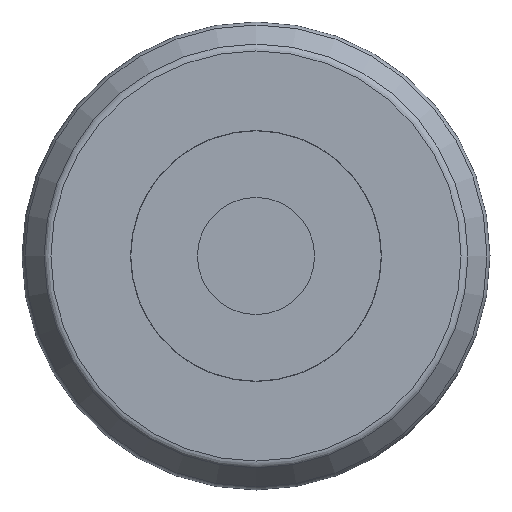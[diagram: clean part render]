
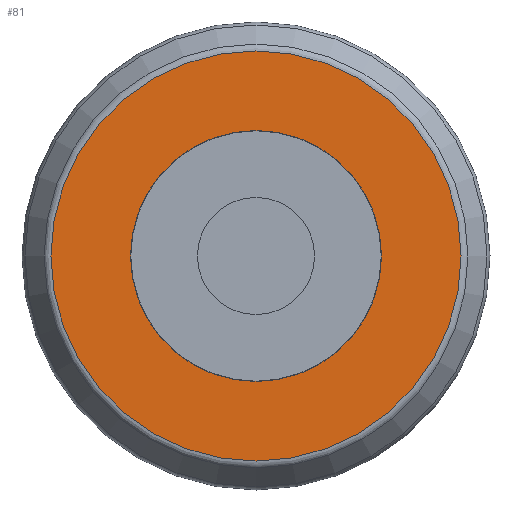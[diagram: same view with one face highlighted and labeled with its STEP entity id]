
A CAD part, left-side view. The second image highlights one B-rep face of the part: STEP entity #81.
In plain terms, the highlighted planar face has unit normal (-1, 0, 0).
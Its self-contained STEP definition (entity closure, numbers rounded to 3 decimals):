
#81 = ADVANCED_FACE( '', ( #121, #122 ), #123, .F. );
#121 = FACE_OUTER_BOUND( '', #198, .T. );
#122 = FACE_BOUND( '', #199, .T. );
#123 = PLANE( '', #200 );
#198 = EDGE_LOOP( '', ( #287 ) );
#199 = EDGE_LOOP( '', ( #288 ) );
#200 = AXIS2_PLACEMENT_3D( '', #289, #290, #291 );
#287 = ORIENTED_EDGE( '', *, *, #425, .F. );
#288 = ORIENTED_EDGE( '', *, *, #424, .T. );
#289 = CARTESIAN_POINT( '', ( -3.75, 0., -7.51 ) );
#290 = DIRECTION( '', ( 1., 0., 0. ) );
#291 = DIRECTION( '', ( 0., 0., -1. ) );
#424 = EDGE_CURVE( '', #468, #468, #469, .T. );
#425 = EDGE_CURVE( '', #470, #470, #471, .T. );
#468 = VERTEX_POINT( '', #538 );
#469 = CIRCLE( '', #539, 7.51 );
#470 = VERTEX_POINT( '', #540 );
#471 = CIRCLE( '', #541, 12.269 );
#538 = CARTESIAN_POINT( '', ( -3.75, 0., -7.51 ) );
#539 = AXIS2_PLACEMENT_3D( '', #631, #632, #633 );
#540 = CARTESIAN_POINT( '', ( -3.75, 0., -12.269 ) );
#541 = AXIS2_PLACEMENT_3D( '', #634, #635, #636 );
#631 = CARTESIAN_POINT( '', ( -3.75, 0., 0. ) );
#632 = DIRECTION( '', ( 1., 0., 0. ) );
#633 = DIRECTION( '', ( 0., 0., -1. ) );
#634 = CARTESIAN_POINT( '', ( -3.75, 0., 0. ) );
#635 = DIRECTION( '', ( 1., 0., 0. ) );
#636 = DIRECTION( '', ( 0., 0., -1. ) );
